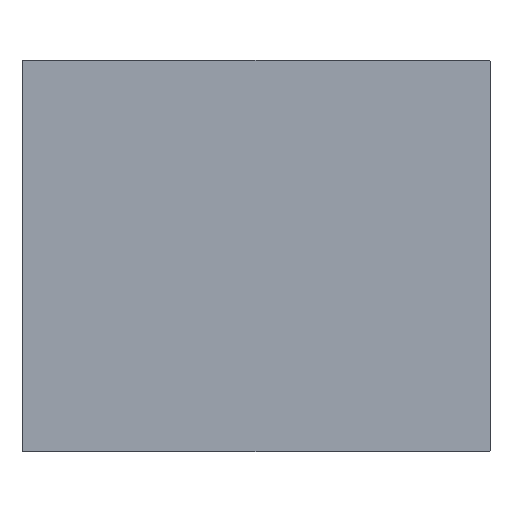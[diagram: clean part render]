
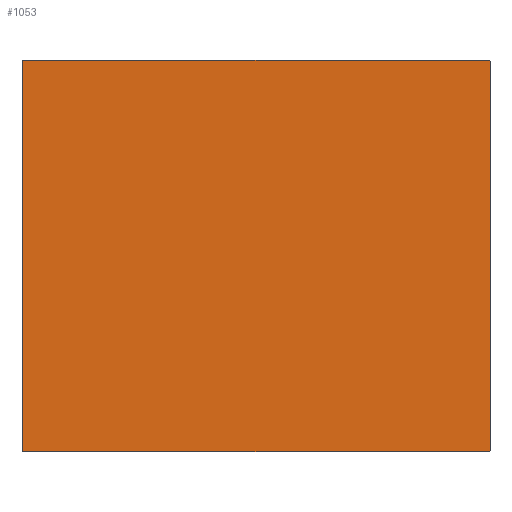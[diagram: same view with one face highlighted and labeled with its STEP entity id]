
A CAD part, front view. The second image highlights one B-rep face of the part: STEP entity #1053.
In plain terms, the highlighted planar face has unit normal (0, -1, 0).
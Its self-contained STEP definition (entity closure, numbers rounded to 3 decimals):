
#655=CIRCLE('',#8692,1.8);
#656=CIRCLE('',#8693,1.8);
#657=CIRCLE('',#8694,1.8);
#658=CIRCLE('',#8695,1.8);
#1053=ADVANCED_FACE('',(#1787),#1562,.T.);
#1562=PLANE('',#8696);
#1787=FACE_OUTER_BOUND('',#2211,.T.);
#2211=EDGE_LOOP('',(#2850,#2851,#2852,#2853,#2854,#2855,#2856,#2857));
#2850=ORIENTED_EDGE('',*,*,#6059,.T.);
#2851=ORIENTED_EDGE('',*,*,#6069,.T.);
#2852=ORIENTED_EDGE('',*,*,#6061,.T.);
#2853=ORIENTED_EDGE('',*,*,#6070,.T.);
#2854=ORIENTED_EDGE('',*,*,#6065,.T.);
#2855=ORIENTED_EDGE('',*,*,#6071,.T.);
#2856=ORIENTED_EDGE('',*,*,#6055,.T.);
#2857=ORIENTED_EDGE('',*,*,#6072,.T.);
#5236=VERTEX_POINT('',#12319);
#5237=VERTEX_POINT('',#12321);
#5240=VERTEX_POINT('',#12328);
#5241=VERTEX_POINT('',#12330);
#5242=VERTEX_POINT('',#12334);
#5243=VERTEX_POINT('',#12335);
#5246=VERTEX_POINT('',#12343);
#5247=VERTEX_POINT('',#12344);
#6055=EDGE_CURVE('',#5237,#5236,#7255,.T.);
#6059=EDGE_CURVE('',#5241,#5240,#7259,.T.);
#6061=EDGE_CURVE('',#5242,#5243,#7261,.T.);
#6065=EDGE_CURVE('',#5246,#5247,#7265,.T.);
#6069=EDGE_CURVE('',#5240,#5242,#655,.T.);
#6070=EDGE_CURVE('',#5243,#5246,#656,.T.);
#6071=EDGE_CURVE('',#5247,#5237,#657,.T.);
#6072=EDGE_CURVE('',#5236,#5241,#658,.T.);
#7255=LINE('',#12320,#7972);
#7259=LINE('',#12329,#7976);
#7261=LINE('',#12333,#7978);
#7265=LINE('',#12342,#7982);
#7972=VECTOR('',#9661,1.);
#7976=VECTOR('',#9667,1.);
#7978=VECTOR('',#9671,1.);
#7982=VECTOR('',#9677,1.);
#8692=AXIS2_PLACEMENT_3D('',#12351,#9683,#9684);
#8693=AXIS2_PLACEMENT_3D('',#12352,#9685,#9686);
#8694=AXIS2_PLACEMENT_3D('',#12353,#9687,#9688);
#8695=AXIS2_PLACEMENT_3D('',#12354,#9689,#9690);
#8696=AXIS2_PLACEMENT_3D('',#12355,#9691,#9692);
#9661=DIRECTION('',(0.,0.,-1.));
#9667=DIRECTION('',(1.,0.,0.));
#9671=DIRECTION('',(0.,0.,1.));
#9677=DIRECTION('',(-1.,0.,0.));
#9683=DIRECTION('',(0.,-1.,0.));
#9684=DIRECTION('',(0.,0.,-1.));
#9685=DIRECTION('',(0.,-1.,0.));
#9686=DIRECTION('',(0.,0.,-1.));
#9687=DIRECTION('',(0.,-1.,0.));
#9688=DIRECTION('',(0.,0.,-1.));
#9689=DIRECTION('',(0.,-1.,0.));
#9690=DIRECTION('',(0.,0.,-1.));
#9691=DIRECTION('',(0.,-1.,0.));
#9692=DIRECTION('',(0.,0.,-1.));
#12319=CARTESIAN_POINT('',(-448.,-28.5,-373.2));
#12320=CARTESIAN_POINT('',(-448.,-28.5,375.));
#12321=CARTESIAN_POINT('',(-448.,-28.5,373.2));
#12328=CARTESIAN_POINT('',(446.2,-28.5,-375.));
#12329=CARTESIAN_POINT('',(-548.,-28.5,-375.));
#12330=CARTESIAN_POINT('',(-446.2,-28.5,-375.));
#12333=CARTESIAN_POINT('',(448.,-28.5,-375.));
#12334=CARTESIAN_POINT('',(448.,-28.5,-373.2));
#12335=CARTESIAN_POINT('',(448.,-28.5,373.2));
#12342=CARTESIAN_POINT('',(548.,-28.5,375.));
#12343=CARTESIAN_POINT('',(446.2,-28.5,375.));
#12344=CARTESIAN_POINT('',(-446.2,-28.5,375.));
#12351=CARTESIAN_POINT('',(446.2,-28.5,-373.2));
#12352=CARTESIAN_POINT('',(446.2,-28.5,373.2));
#12353=CARTESIAN_POINT('',(-446.2,-28.5,373.2));
#12354=CARTESIAN_POINT('',(-446.2,-28.5,-373.2));
#12355=CARTESIAN_POINT('',(0.,-28.5,0.));
